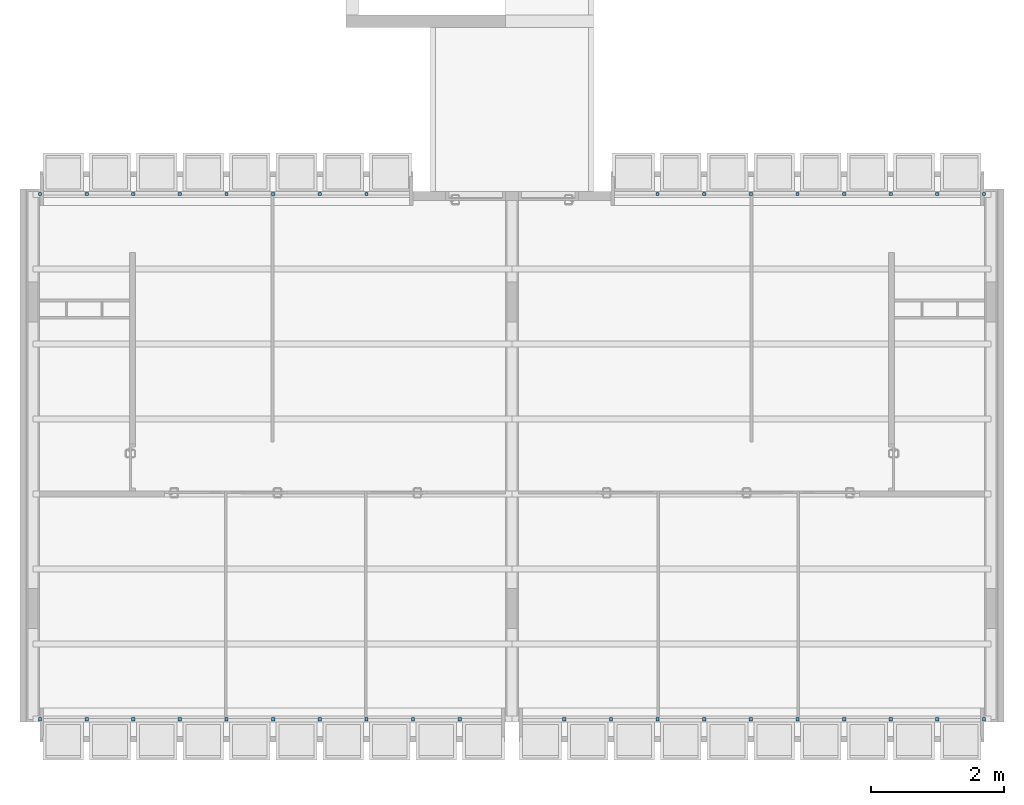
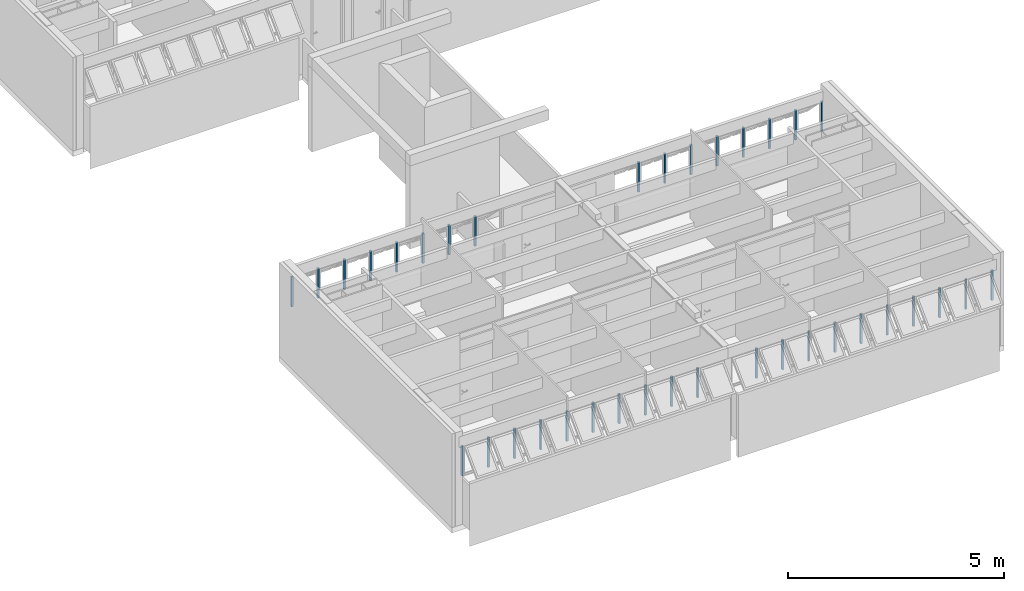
# One storey, part 2 of 37: 36 members, 4 elements without a shape of their own.
"""IFC2X3 building model written with IfcOpenShell, lengths in millimetres."""

from ifc_helpers import new_model, entity, si_unit, converted_unit, derived_unit, money_unit, direction, frame, origin_with_axes, place, context, subcontext, project, spatial, polyline, outline, extrude, material, type_object, element, aggregate, save


model = new_model("IFC2X3")

# Units and contexts
model_context = context("Model", 3, precision=0.01, world=origin_with_axes(), true_north=direction((0.0, 1.0)))
body_context = subcontext(model_context, "Body", "Model", "MODEL_VIEW")
ifc_project = project(units=[si_unit("LENGTHUNIT", "METRE", prefix="MILLI"), si_unit("AREAUNIT", "SQUARE_METRE"), si_unit("VOLUMEUNIT", "CUBIC_METRE"), converted_unit("PLANEANGLEUNIT", "DEGREE", entity("IfcPlaneAngleMeasure", 0.0174532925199), si_unit("PLANEANGLEUNIT", "RADIAN"), dimensions=[0, 0, 0, 0, 0, 0, 0]), money_unit("USD"), converted_unit("TIMEUNIT", "Year", entity("IfcTimeMeasure", 31556926.0), si_unit("TIMEUNIT", "SECOND"), dimensions=[0, 0, 1, 0, 0, 0, 0]), si_unit("MASSUNIT", "GRAM", prefix="KILO"), si_unit("THERMODYNAMICTEMPERATUREUNIT", "DEGREE_CELSIUS"), si_unit("LUMINOUSINTENSITYUNIT", "LUMEN"), si_unit("ENERGYUNIT", "JOULE", prefix="MEGA"), derived_unit("THERMALCONDUCTANCEUNIT", [(si_unit("POWERUNIT", "WATT"), 1), (si_unit("LENGTHUNIT", "METRE"), -1), (si_unit("THERMODYNAMICTEMPERATUREUNIT", "KELVIN"), -1)]), derived_unit("SPECIFICHEATCAPACITYUNIT", [(si_unit("ENERGYUNIT", "JOULE"), 1), (si_unit("MASSUNIT", "GRAM", prefix="KILO"), -1), (si_unit("THERMODYNAMICTEMPERATUREUNIT", "KELVIN"), -1)]), derived_unit("MASSDENSITYUNIT", [(si_unit("MASSUNIT", "GRAM", prefix="KILO"), 1), (si_unit("VOLUMEUNIT", "CUBIC_METRE"), -1)])], contexts=[model_context])

# Site, building, storey
site_placement = place(None, origin_with_axes())
site = spatial("IfcSite", under=ifc_project, at=site_placement, Name="Local", CompositionType="ELEMENT")
building_placement = place(site_placement, origin_with_axes())
building = spatial("IfcBuilding", under=site, at=building_placement, Name="Construção", CompositionType="ELEMENT")
storey_placement = place(building_placement, frame((0.0, 0.0, 5300.0), z_axis=(0.0, 0.0, 1.0), x_axis=(1.0, 0.0, 0.0)))
storey = spatial("IfcBuildingStorey", under=building, at=storey_placement, Name="Terceiro Pavimento", CompositionType="ELEMENT", Elevation=5300.0)

# Window, members
window_style = type_object("IfcWindowStyle", Name="Tipo de Parede Cortina", ConstructionType="NOTDEFINED", OperationType="NOTDEFINED", ParameterTakesPrecedence=False, Sizeable=False)
window_1_placement = place(storey_placement, frame((2750.0, 8250.0, 1355.00007107), z_axis=(0.0, 0.0, 1.0), x_axis=(1.0, 0.0, 0.0)))
window_1 = element("IfcWindow", 1, at=window_1_placement, inside=storey, type_object=window_style, Name="APTO9-JANELA-000")
ifc_material = material(Name="Alumínio")
member_type = type_object("IfcMemberType", Name="Montante 50 x 50", PredefinedType="MULLION")
member_1_placement = place(window_1_placement, frame((1050.0, 0.0, 0.0), z_axis=(0.0, 0.0, 1.0), x_axis=(-1.0, 0.0, 0.0)))
member_1 = element("IfcMember", 2, at=member_1_placement, type_object=member_type, material=ifc_material, Name="APTO9-PC-Est-Mnt-430", context=body_context, shape_type="SweptSolid", body=[
    extrude(outline(polyline([(-25.0, -50.0), (25.0, -50.0), (25.0, 0.0), (-25.0, 0.0), (-25.0, -50.0)])), frame((0.0, 0.0, 0.0), z_axis=(0.0, 0.0, 1.0), x_axis=(-1.0, 0.0, 0.0)), (0.0, 0.0, 1.0), 844.999928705),
])
member_2_placement = place(window_1_placement, frame((1750.0, 0.0, 0.0), z_axis=(0.0, 0.0, 1.0), x_axis=(-1.0, 0.0, 0.0)))
member_2 = element("IfcMember", 3, at=member_2_placement, type_object=member_type, material=ifc_material, Name="APTO9-PC-Est-Mnt-485", context=body_context, shape_type="SweptSolid", body=[
    extrude(outline(polyline([(-25.0, -50.0), (25.0, -50.0), (25.0, 0.0), (-25.0, 0.0), (-25.0, -50.0)])), frame((0.0, 0.0, 0.0), z_axis=(0.0, 0.0, 1.0), x_axis=(-1.0, 0.0, 0.0)), (0.0, 0.0, 1.0), 844.999928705),
])
member_3_placement = place(window_1_placement, frame((2450.0, 0.0, 0.0), z_axis=(0.0, 0.0, 1.0), x_axis=(-1.0, 0.0, 0.0)))
member_3 = element("IfcMember", 4, at=member_3_placement, type_object=member_type, material=ifc_material, Name="APTO9-PC-Est-Mnt-486", context=body_context, shape_type="SweptSolid", body=[
    extrude(outline(polyline([(-25.0, -50.0), (25.0, -50.0), (25.0, 0.0), (-25.0, 0.0), (-25.0, -50.0)])), frame((0.0, 0.0, 0.0), z_axis=(0.0, 0.0, 1.0), x_axis=(-1.0, 0.0, 0.0)), (0.0, 0.0, 1.0), 844.999928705),
])
member_4_placement = place(window_1_placement, frame((-350.0, 0.0, 0.0), z_axis=(0.0, 0.0, 1.0), x_axis=(-1.0, 0.0, 0.0)))
member_4 = element("IfcMember", 5, at=member_4_placement, type_object=member_type, material=ifc_material, Name="APTO9-PC-Est-Mnt-428", context=body_context, shape_type="SweptSolid", body=[
    extrude(outline(polyline([(-25.0, -50.0), (25.0, -50.0), (25.0, 0.0), (-25.0, 0.0), (-25.0, -50.0)])), frame((0.0, 0.0, 0.0), z_axis=(0.0, 0.0, 1.0), x_axis=(-1.0, 0.0, 0.0)), (0.0, 0.0, 1.0), 844.999928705),
])
member_5_placement = place(window_1_placement, frame((-2450.0, 0.0, 0.0), z_axis=(0.0, 0.0, 1.0), x_axis=(-1.0, 0.0, 0.0)))
member_5 = element("IfcMember", 6, at=member_5_placement, type_object=member_type, material=ifc_material, Name="APTO9-PC-Est-Mnt-560", context=body_context, shape_type="SweptSolid", body=[
    extrude(outline(polyline([(-25.0, -50.0), (25.0, -50.0), (25.0, 0.0), (-25.0, 0.0), (-25.0, -50.0)])), frame((0.0, 0.0, 0.0), z_axis=(0.0, 0.0, 1.0), x_axis=(-1.0, 0.0, 0.0)), (0.0, 0.0, 1.0), 844.999928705),
])
member_6_placement = place(window_1_placement, frame((350.0, 0.0, 0.0), z_axis=(0.0, 0.0, 1.0), x_axis=(-1.0, 0.0, 0.0)))
member_6 = element("IfcMember", 7, at=member_6_placement, type_object=member_type, material=ifc_material, Name="APTO9-PC-Est-Mnt-429", context=body_context, shape_type="SweptSolid", body=[
    extrude(outline(polyline([(-25.0, -50.0), (25.0, -50.0), (25.0, 0.0), (-25.0, 0.0), (-25.0, -50.0)])), frame((0.0, 0.0, 0.0), z_axis=(0.0, 0.0, 1.0), x_axis=(-1.0, 0.0, 0.0)), (0.0, 0.0, 1.0), 844.999928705),
])
member_7_placement = place(window_1_placement, frame((-1050.0, 0.0, 0.0), z_axis=(0.0, 0.0, 1.0), x_axis=(-1.0, 0.0, 0.0)))
member_7 = element("IfcMember", 8, at=member_7_placement, type_object=member_type, material=ifc_material, Name="APTO9-PC-Est-Mnt-427", context=body_context, shape_type="SweptSolid", body=[
    extrude(outline(polyline([(-25.0, -50.0), (25.0, -50.0), (25.0, 0.0), (-25.0, 0.0), (-25.0, -50.0)])), frame((0.0, 0.0, 0.0), z_axis=(0.0, 0.0, 1.0), x_axis=(-1.0, 0.0, 0.0)), (0.0, 0.0, 1.0), 844.999928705),
])
member_8_placement = place(window_1_placement, frame((-1750.0, 0.0, 0.0), z_axis=(0.0, 0.0, 1.0), x_axis=(-1.0, 0.0, 0.0)))
member_8 = element("IfcMember", 9, at=member_8_placement, type_object=member_type, material=ifc_material, Name="APTO9-PC-Est-Mnt-426", context=body_context, shape_type="SweptSolid", body=[
    extrude(outline(polyline([(-25.0, -50.0), (25.0, -50.0), (25.0, 0.0), (-25.0, 0.0), (-25.0, -50.0)])), frame((0.0, 0.0, 0.0), z_axis=(0.0, 0.0, 1.0), x_axis=(-1.0, 0.0, 0.0)), (0.0, 0.0, 1.0), 844.999928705),
])
aggregate(window_1, [member_1, member_2, member_3, member_4, member_5, member_6, member_7, member_8])

window_2_placement = place(storey_placement, frame((6250.0, 315.020977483, 1355.02054151), z_axis=(0.0, 0.0, 1.0), x_axis=(1.0, 0.0, 0.0)))
window_2 = element("IfcWindow", 10, at=window_2_placement, inside=storey, type_object=window_style, Name="APTO9-JANELA-001")
member_9_placement = place(window_2_placement, frame((-2450.0, 0.0, 0.0), z_axis=(0.0, 0.0, 1.0), x_axis=(-1.0, 0.0, 0.0)))
member_9 = element("IfcMember", 11, at=member_9_placement, type_object=member_type, material=ifc_material, Name="APTO9-PC-Est-Mnt-430", context=body_context, shape_type="SweptSolid", body=[
    extrude(outline(polyline([(-25.0, 50.0), (-25.0, 0.0), (25.0, 0.0), (25.0, 50.0), (-25.0, 50.0)])), frame((0.0, 0.0, 0.0), z_axis=(0.0, 0.0, 1.0), x_axis=(-1.0, 0.0, 0.0)), (0.0, 0.0, 1.0), 844.999891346),
])
member_10_placement = place(window_2_placement, frame((-1750.0, 0.0, 0.0), z_axis=(0.0, 0.0, 1.0), x_axis=(-1.0, 0.0, 0.0)))
member_10 = element("IfcMember", 12, at=member_10_placement, type_object=member_type, material=ifc_material, Name="APTO9-PC-Est-Mnt-485", context=body_context, shape_type="SweptSolid", body=[
    extrude(outline(polyline([(-25.0, 50.0), (-25.0, 0.0), (25.0, 0.0), (25.0, 50.0), (-25.0, 50.0)])), frame((0.0, 0.0, 0.0), z_axis=(0.0, 0.0, 1.0), x_axis=(-1.0, 0.0, 0.0)), (0.0, 0.0, 1.0), 844.999891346),
])
member_11_placement = place(window_2_placement, frame((-1050.0, 0.0, 0.0), z_axis=(0.0, 0.0, 1.0), x_axis=(-1.0, 0.0, 0.0)))
member_11 = element("IfcMember", 13, at=member_11_placement, type_object=member_type, material=ifc_material, Name="APTO9-PC-Est-Mnt-486", context=body_context, shape_type="SweptSolid", body=[
    extrude(outline(polyline([(-25.0, 50.0), (-25.0, 0.0), (25.0, 0.0), (25.0, 50.0), (-25.0, 50.0)])), frame((0.0, 0.0, 0.0), z_axis=(0.0, 0.0, 1.0), x_axis=(-1.0, 0.0, 0.0)), (0.0, 0.0, 1.0), 844.999891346),
])
member_12_placement = place(window_2_placement, frame((-3850.0, 0.0, 0.0), z_axis=(0.0, 0.0, 1.0), x_axis=(-1.0, 0.0, 0.0)))
member_12 = element("IfcMember", 14, at=member_12_placement, type_object=member_type, material=ifc_material, Name="APTO9-PC-Est-Mnt-428", context=body_context, shape_type="SweptSolid", body=[
    extrude(outline(polyline([(-25.0, 50.0), (-25.0, 0.0), (25.0, 0.0), (25.0, 50.0), (-25.0, 50.0)])), frame((0.0, 0.0, 0.0), z_axis=(0.0, 0.0, 1.0), x_axis=(-1.0, 0.0, 0.0)), (0.0, 0.0, 1.0), 844.999891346),
])
member_13_placement = place(window_2_placement, frame((-350.0, 0.0, 0.0), z_axis=(0.0, 0.0, 1.0), x_axis=(-1.0, 0.0, 0.0)))
member_13 = element("IfcMember", 15, at=member_13_placement, type_object=member_type, material=ifc_material, Name="APTO9-PC-Est-Mnt-487", context=body_context, shape_type="SweptSolid", body=[
    extrude(outline(polyline([(-25.0, 50.0), (-25.0, 0.0), (25.0, 0.0), (25.0, 50.0), (-25.0, 50.0)])), frame((0.0, 0.0, 0.0), z_axis=(0.0, 0.0, 1.0), x_axis=(-1.0, 0.0, 0.0)), (0.0, 0.0, 1.0), 844.999891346),
])
member_14_placement = place(window_2_placement, frame((350.0, 0.0, 0.0), z_axis=(0.0, 0.0, 1.0), x_axis=(-1.0, 0.0, 0.0)))
member_14 = element("IfcMember", 16, at=member_14_placement, type_object=member_type, material=ifc_material, Name="APTO9-PC-Est-Mnt-488", context=body_context, shape_type="SweptSolid", body=[
    extrude(outline(polyline([(-25.0, 50.0), (-25.0, 0.0), (25.0, 0.0), (25.0, 50.0), (-25.0, 50.0)])), frame((0.0, 0.0, 0.0), z_axis=(0.0, 0.0, 1.0), x_axis=(-1.0, 0.0, 0.0)), (0.0, 0.0, 1.0), 844.999891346),
])
member_15_placement = place(window_2_placement, frame((-5950.0, 0.0, 0.0), z_axis=(0.0, 0.0, 1.0), x_axis=(-1.0, 0.0, 0.0)))
member_15 = element("IfcMember", 17, at=member_15_placement, type_object=member_type, material=ifc_material, Name="APTO9-PC-Est-Mnt-522", context=body_context, shape_type="SweptSolid", body=[
    extrude(outline(polyline([(-25.0, 50.0), (-25.0, 0.0), (25.0, 0.0), (25.0, 50.0), (-25.0, 50.0)])), frame((0.0, 0.0, 0.0), z_axis=(0.0, 0.0, 1.0), x_axis=(-1.0, 0.0, 0.0)), (0.0, 0.0, 1.0), 844.999891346),
])
member_16_placement = place(window_2_placement, frame((-3150.0, 0.0, 0.0), z_axis=(0.0, 0.0, 1.0), x_axis=(-1.0, 0.0, 0.0)))
member_16 = element("IfcMember", 18, at=member_16_placement, type_object=member_type, material=ifc_material, Name="APTO9-PC-Est-Mnt-429", context=body_context, shape_type="SweptSolid", body=[
    extrude(outline(polyline([(-25.0, 50.0), (-25.0, 0.0), (25.0, 0.0), (25.0, 50.0), (-25.0, 50.0)])), frame((0.0, 0.0, 0.0), z_axis=(0.0, 0.0, 1.0), x_axis=(-1.0, 0.0, 0.0)), (0.0, 0.0, 1.0), 844.999891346),
])
member_17_placement = place(window_2_placement, frame((-4550.0, 0.0, 0.0), z_axis=(0.0, 0.0, 1.0), x_axis=(-1.0, 0.0, 0.0)))
member_17 = element("IfcMember", 19, at=member_17_placement, type_object=member_type, material=ifc_material, Name="APTO9-PC-Est-Mnt-427", context=body_context, shape_type="SweptSolid", body=[
    extrude(outline(polyline([(-25.0, 50.0), (-25.0, 0.0), (25.0, 0.0), (25.0, 50.0), (-25.0, 50.0)])), frame((0.0, 0.0, 0.0), z_axis=(0.0, 0.0, 1.0), x_axis=(-1.0, 0.0, 0.0)), (0.0, 0.0, 1.0), 844.999891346),
])
member_18_placement = place(window_2_placement, frame((-5250.0, 0.0, 0.0), z_axis=(0.0, 0.0, 1.0), x_axis=(-1.0, 0.0, 0.0)))
member_18 = element("IfcMember", 20, at=member_18_placement, type_object=member_type, material=ifc_material, Name="APTO9-PC-Est-Mnt-426", context=body_context, shape_type="SweptSolid", body=[
    extrude(outline(polyline([(-25.0, 50.0), (-25.0, 0.0), (25.0, 0.0), (25.0, 50.0), (-25.0, 50.0)])), frame((0.0, 0.0, 0.0), z_axis=(0.0, 0.0, 1.0), x_axis=(-1.0, 0.0, 0.0)), (0.0, 0.0, 1.0), 844.999891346),
])
aggregate(window_2, [member_9, member_10, member_11, member_12, member_13, member_14, member_15, member_16, member_17, member_18])

window_3_placement = place(storey_placement, frame((12020.0, 8250.0, 1355.00007107), z_axis=(0.0, 0.0, 1.0), x_axis=(1.0, 0.0, 0.0)))
window_3 = element("IfcWindow", 21, at=window_3_placement, inside=storey, type_object=window_style, Name="APTO10-JANELA-000")
member_19_placement = place(window_3_placement, frame((-1050.0, 0.0, 0.0), z_axis=(0.0, 0.0, 1.0), x_axis=(1.0, 0.0, 0.0)))
member_19 = element("IfcMember", 22, at=member_19_placement, type_object=member_type, material=ifc_material, Name="APTO10-PC-Est-Mnt-430", context=body_context, shape_type="SweptSolid", body=[
    extrude(outline(polyline([(25.0, -50.0), (25.0, 0.0), (-25.0, 0.0), (-25.0, -50.0), (25.0, -50.0)])), origin_with_axes(), (0.0, 0.0, 1.0), 844.999891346),
])
member_20_placement = place(window_3_placement, frame((-1750.0, 0.0, 0.0), z_axis=(0.0, 0.0, 1.0), x_axis=(1.0, 0.0, 0.0)))
member_20 = element("IfcMember", 23, at=member_20_placement, type_object=member_type, material=ifc_material, Name="APTO10-PC-Est-Mnt-485", context=body_context, shape_type="SweptSolid", body=[
    extrude(outline(polyline([(25.0, -50.0), (25.0, 0.0), (-25.0, 0.0), (-25.0, -50.0), (25.0, -50.0)])), origin_with_axes(), (0.0, 0.0, 1.0), 844.999891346),
])
member_21_placement = place(window_3_placement, frame((-2450.0, 0.0, 0.0), z_axis=(0.0, 0.0, 1.0), x_axis=(1.0, 0.0, 0.0)))
member_21 = element("IfcMember", 24, at=member_21_placement, type_object=member_type, material=ifc_material, Name="APTO10-PC-Est-Mnt-486", context=body_context, shape_type="SweptSolid", body=[
    extrude(outline(polyline([(25.0, -50.0), (25.0, 0.0), (-25.0, 0.0), (-25.0, -50.0), (25.0, -50.0)])), origin_with_axes(), (0.0, 0.0, 1.0), 844.999891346),
])
member_22_placement = place(window_3_placement, frame((350.0, 0.0, 0.0), z_axis=(0.0, 0.0, 1.0), x_axis=(1.0, 0.0, 0.0)))
member_22 = element("IfcMember", 25, at=member_22_placement, type_object=member_type, material=ifc_material, Name="APTO10-PC-Est-Mnt-428", context=body_context, shape_type="SweptSolid", body=[
    extrude(outline(polyline([(25.0, -50.0), (25.0, 0.0), (-25.0, 0.0), (-25.0, -50.0), (25.0, -50.0)])), origin_with_axes(), (0.0, 0.0, 1.0), 844.999891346),
])
member_23_placement = place(window_3_placement, frame((2450.0, 0.0, 0.0), z_axis=(0.0, 0.0, 1.0), x_axis=(1.0, 0.0, 0.0)))
member_23 = element("IfcMember", 26, at=member_23_placement, type_object=member_type, material=ifc_material, Name="APTO10-PC-Est-Mnt-560", context=body_context, shape_type="SweptSolid", body=[
    extrude(outline(polyline([(25.0, -50.0), (25.0, 0.0), (-25.0, 0.0), (-25.0, -50.0), (25.0, -50.0)])), origin_with_axes(), (0.0, 0.0, 1.0), 844.999891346),
])
member_24_placement = place(window_3_placement, frame((-350.0, 0.0, 0.0), z_axis=(0.0, 0.0, 1.0), x_axis=(1.0, 0.0, 0.0)))
member_24 = element("IfcMember", 27, at=member_24_placement, type_object=member_type, material=ifc_material, Name="APTO10-PC-Est-Mnt-429", context=body_context, shape_type="SweptSolid", body=[
    extrude(outline(polyline([(25.0, -50.0), (25.0, 0.0), (-25.0, 0.0), (-25.0, -50.0), (25.0, -50.0)])), origin_with_axes(), (0.0, 0.0, 1.0), 844.999891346),
])
member_25_placement = place(window_3_placement, frame((1050.0, 0.0, 0.0), z_axis=(0.0, 0.0, 1.0), x_axis=(1.0, 0.0, 0.0)))
member_25 = element("IfcMember", 28, at=member_25_placement, type_object=member_type, material=ifc_material, Name="APTO10-PC-Est-Mnt-427", context=body_context, shape_type="SweptSolid", body=[
    extrude(outline(polyline([(25.0, -50.0), (25.0, 0.0), (-25.0, 0.0), (-25.0, -50.0), (25.0, -50.0)])), origin_with_axes(), (0.0, 0.0, 1.0), 844.999891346),
])
member_26_placement = place(window_3_placement, frame((1750.0, 0.0, 0.0), z_axis=(0.0, 0.0, 1.0), x_axis=(1.0, 0.0, 0.0)))
member_26 = element("IfcMember", 29, at=member_26_placement, type_object=member_type, material=ifc_material, Name="APTO10-PC-Est-Mnt-426", context=body_context, shape_type="SweptSolid", body=[
    extrude(outline(polyline([(25.0, -50.0), (25.0, 0.0), (-25.0, 0.0), (-25.0, -50.0), (25.0, -50.0)])), origin_with_axes(), (0.0, 0.0, 1.0), 844.999891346),
])
aggregate(window_3, [member_19, member_20, member_21, member_22, member_23, member_24, member_25, member_26])

window_4_placement = place(storey_placement, frame((8520.0, 315.020977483, 1355.02054151), z_axis=(0.0, 0.0, 1.0), x_axis=(1.0, 0.0, 0.0)))
window_4 = element("IfcWindow", 30, at=window_4_placement, inside=storey, type_object=window_style, Name="APTO10-JANELA-001")
member_27_placement = place(window_4_placement, frame((2450.0, 0.0, 0.0), z_axis=(0.0, 0.0, 1.0), x_axis=(1.0, 0.0, 0.0)))
member_27 = element("IfcMember", 31, at=member_27_placement, type_object=member_type, material=ifc_material, Name="APTO10-PC-Est-Mnt-430", context=body_context, shape_type="SweptSolid", body=[
    extrude(outline(polyline([(25.0, 50.0), (-25.0, 50.0), (-25.0, 0.0), (25.0, 0.0), (25.0, 50.0)])), origin_with_axes(), (0.0, 0.0, 1.0), 844.999928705),
])
member_28_placement = place(window_4_placement, frame((1750.0, 0.0, 0.0), z_axis=(0.0, 0.0, 1.0), x_axis=(1.0, 0.0, 0.0)))
member_28 = element("IfcMember", 32, at=member_28_placement, type_object=member_type, material=ifc_material, Name="APTO10-PC-Est-Mnt-485", context=body_context, shape_type="SweptSolid", body=[
    extrude(outline(polyline([(25.0, 50.0), (-25.0, 50.0), (-25.0, 0.0), (25.0, 0.0), (25.0, 50.0)])), origin_with_axes(), (0.0, 0.0, 1.0), 844.999928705),
])
member_29_placement = place(window_4_placement, frame((1050.0, 0.0, 0.0), z_axis=(0.0, 0.0, 1.0), x_axis=(1.0, 0.0, 0.0)))
member_29 = element("IfcMember", 33, at=member_29_placement, type_object=member_type, material=ifc_material, Name="APTO10-PC-Est-Mnt-486", context=body_context, shape_type="SweptSolid", body=[
    extrude(outline(polyline([(25.0, 50.0), (-25.0, 50.0), (-25.0, 0.0), (25.0, 0.0), (25.0, 50.0)])), origin_with_axes(), (0.0, 0.0, 1.0), 844.999928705),
])
member_30_placement = place(window_4_placement, frame((3850.0, 0.0, 0.0), z_axis=(0.0, 0.0, 1.0), x_axis=(1.0, 0.0, 0.0)))
member_30 = element("IfcMember", 34, at=member_30_placement, type_object=member_type, material=ifc_material, Name="APTO10-PC-Est-Mnt-428", context=body_context, shape_type="SweptSolid", body=[
    extrude(outline(polyline([(25.0, 50.0), (-25.0, 50.0), (-25.0, 0.0), (25.0, 0.0), (25.0, 50.0)])), origin_with_axes(), (0.0, 0.0, 1.0), 844.999928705),
])
member_31_placement = place(window_4_placement, frame((350.0, 0.0, 0.0), z_axis=(0.0, 0.0, 1.0), x_axis=(1.0, 0.0, 0.0)))
member_31 = element("IfcMember", 35, at=member_31_placement, type_object=member_type, material=ifc_material, Name="APTO10-PC-Est-Mnt-487", context=body_context, shape_type="SweptSolid", body=[
    extrude(outline(polyline([(25.0, 50.0), (-25.0, 50.0), (-25.0, 0.0), (25.0, 0.0), (25.0, 50.0)])), origin_with_axes(), (0.0, 0.0, 1.0), 844.999928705),
])
member_32_placement = place(window_4_placement, frame((-350.0, 0.0, 0.0), z_axis=(0.0, 0.0, 1.0), x_axis=(1.0, 0.0, 0.0)))
member_32 = element("IfcMember", 36, at=member_32_placement, type_object=member_type, material=ifc_material, Name="APTO10-PC-Est-Mnt-488", context=body_context, shape_type="SweptSolid", body=[
    extrude(outline(polyline([(25.0, 50.0), (-25.0, 50.0), (-25.0, 0.0), (25.0, 0.0), (25.0, 50.0)])), origin_with_axes(), (0.0, 0.0, 1.0), 844.999928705),
])
member_33_placement = place(window_4_placement, frame((5950.0, 0.0, 0.0), z_axis=(0.0, 0.0, 1.0), x_axis=(1.0, 0.0, 0.0)))
member_33 = element("IfcMember", 37, at=member_33_placement, type_object=member_type, material=ifc_material, Name="APTO10-PC-Est-Mnt-522", context=body_context, shape_type="SweptSolid", body=[
    extrude(outline(polyline([(25.0, 50.0), (-25.0, 50.0), (-25.0, 0.0), (25.0, 0.0), (25.0, 50.0)])), origin_with_axes(), (0.0, 0.0, 1.0), 844.999928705),
])
member_34_placement = place(window_4_placement, frame((3150.0, 0.0, 0.0), z_axis=(0.0, 0.0, 1.0), x_axis=(1.0, 0.0, 0.0)))
member_34 = element("IfcMember", 38, at=member_34_placement, type_object=member_type, material=ifc_material, Name="APTO10-PC-Est-Mnt-429", context=body_context, shape_type="SweptSolid", body=[
    extrude(outline(polyline([(25.0, 50.0), (-25.0, 50.0), (-25.0, 0.0), (25.0, 0.0), (25.0, 50.0)])), origin_with_axes(), (0.0, 0.0, 1.0), 844.999928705),
])
member_35_placement = place(window_4_placement, frame((4550.0, 0.0, 0.0), z_axis=(0.0, 0.0, 1.0), x_axis=(1.0, 0.0, 0.0)))
member_35 = element("IfcMember", 39, at=member_35_placement, type_object=member_type, material=ifc_material, Name="APTO10-PC-Est-Mnt-427", context=body_context, shape_type="SweptSolid", body=[
    extrude(outline(polyline([(25.0, 50.0), (-25.0, 50.0), (-25.0, 0.0), (25.0, 0.0), (25.0, 50.0)])), origin_with_axes(), (0.0, 0.0, 1.0), 844.999928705),
])
member_36_placement = place(window_4_placement, frame((5250.0, 0.0, 0.0), z_axis=(0.0, 0.0, 1.0), x_axis=(1.0, 0.0, 0.0)))
member_36 = element("IfcMember", 40, at=member_36_placement, type_object=member_type, material=ifc_material, Name="APTO10-PC-Est-Mnt-426", context=body_context, shape_type="SweptSolid", body=[
    extrude(outline(polyline([(25.0, 50.0), (-25.0, 50.0), (-25.0, 0.0), (25.0, 0.0), (25.0, 50.0)])), origin_with_axes(), (0.0, 0.0, 1.0), 844.999928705),
])
aggregate(window_4, [member_27, member_28, member_29, member_30, member_31, member_32, member_33, member_34, member_35, member_36])

save(model, "model.ifc")
